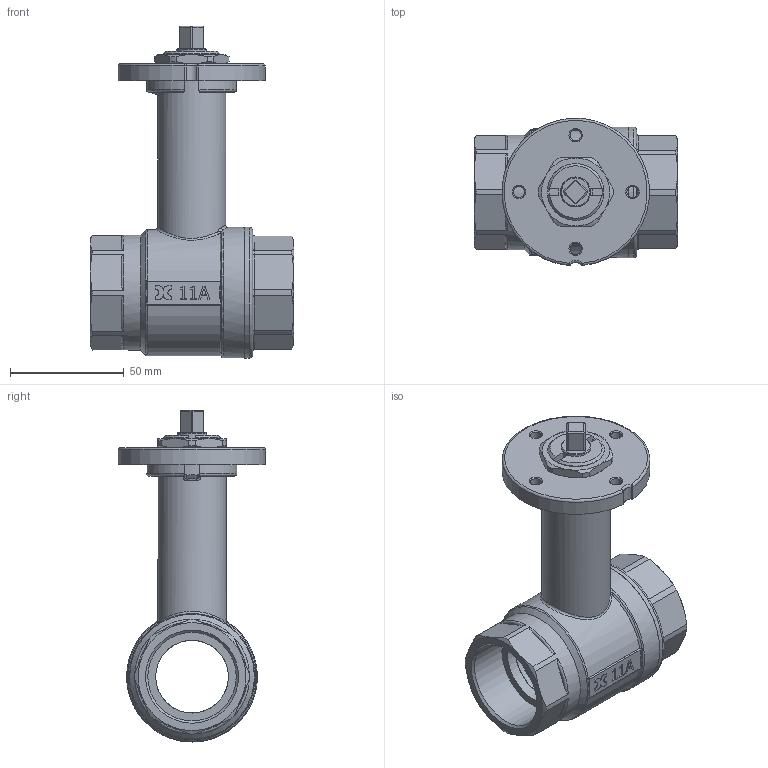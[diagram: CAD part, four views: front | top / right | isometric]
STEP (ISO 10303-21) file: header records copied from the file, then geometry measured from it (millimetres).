
FILE_DESCRIPTION((''),'2;1');
FILE_NAME('C:\Documents and Settings\ut4\Desktop\TICOM ULTIMATE\Art.109 PM SM 114.stp','2012-07-16T16:15:11',('ut4'),(''),'Autodesk Inventor 2013','Autodesk Inventor 2013','');
FILE_SCHEMA(('AUTOMOTIVE_DESIGN { 1 0 10303 214 1 1 1 1 }'));
Length unit declared in the file: millimetre
Products named in the file (14): Valvola a sfera mot. 114 art.109 PM SM; sfera 114; O-ring 37.77 x 2; Dischetto portamotore SM Ø25 lav; Dado blocca piastra SM3; Anello antigrip. perno mot. Ø20; Boccola antigrip. perno mot. Ø20; O-ring 15.08 x 2; Sede 114; Manicotto femmina 114 mot; Corpo prolunga mot. 114; Perno mot. prolunga corto 20 q8; Tubetto prolunga mot; Ghiera ferma asta mot. 25 prolunga
Assembly tree (17 placements, depth 2):
  Valvola a sfera mot. 114 art.109 PM SM
    sfera 114
    O-ring 37.77 x 2  x2
    Dischetto portamotore SM Ø25 lav
    Dado blocca piastra SM3
    Anello antigrip. perno mot. Ø20
    Boccola antigrip. perno mot. Ø20  x2
    O-ring 15.08 x 2  x2
    Sede 114  x2
    Manicotto femmina 114 mot
    Corpo prolunga mot. 114
    Perno mot. prolunga corto 20 q8
    Tubetto prolunga mot
    Ghiera ferma asta mot. 25 prolunga
Bounding box: 89.6 x 64.73 x 146.1 mm (x, y, z)
Volume: 174149.6 mm3; surface area: 94514.8 mm2
Topology: 17 solids, 17 shells, 624 faces, 1525 edges, 947 vertices
Faces by surface type: plane 273, cylinder 162, torus 66, cone 63, bspline 39, sphere 21
Full cylindrical faces by diameter (mm): 4.917 x4, 13 x1, 13.2 x3, 14.8 x2, 15 x2, 16 x1, 16.1 x2, 16.3 x2, 19.9 x3, 20 x4, 20.1 x1, 23 x1, 23.3 x1, 23.5 x2, 25 x2, 30 x1, 32 x5, 37.6 x2, 38.95 x1, 39 x1, 43 x4, 50.5 x2, 52 x1, 52.4 x1, 57.5 x2
Entity records: 19227 total; most frequent: CARTESIAN_POINT 4811, DIRECTION 2809, ORIENTED_EDGE 2742, EDGE_CURVE 1371, AXIS2_PLACEMENT_3D 1072, VERTEX_POINT 907, EDGE_LOOP 754, VECTOR 665
